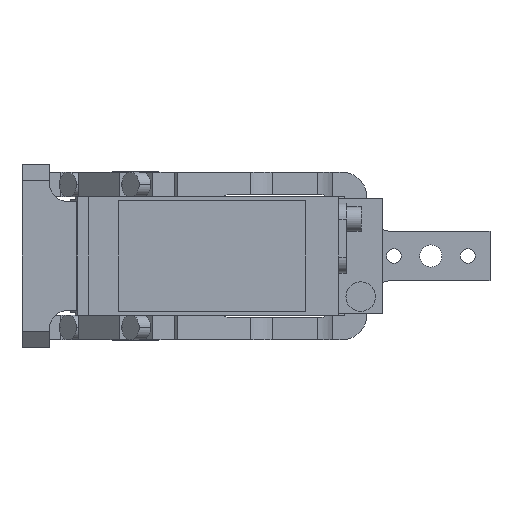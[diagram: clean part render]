
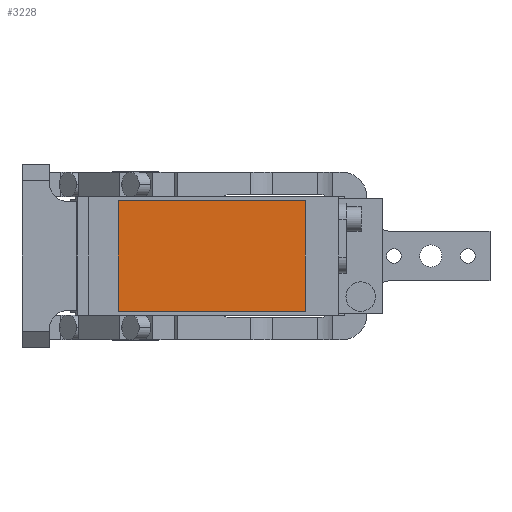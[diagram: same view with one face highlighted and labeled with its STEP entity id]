
A CAD part, front view. The second image highlights one B-rep face of the part: STEP entity #3228.
In plain terms, the highlighted planar face has unit normal (0, -1, 0).
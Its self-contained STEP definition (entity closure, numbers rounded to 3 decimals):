
#680 = CARTESIAN_POINT ( 'NONE',  ( -7., -280.5, -22.5 ) ) ;
#1935 = CARTESIAN_POINT ( 'NONE',  ( -7., -280.5, 22.5 ) ) ;
#3057 = FACE_OUTER_BOUND ( 'NONE', #8756, .T. ) ;
#3228 = ADVANCED_FACE ( 'NONE', ( #3057 ), #9085, .T. ) ;
#3315 = VECTOR ( 'NONE', #13100, 1000. ) ;
#4314 = ORIENTED_EDGE ( 'NONE', *, *, #10491, .T. ) ;
#4653 = CARTESIAN_POINT ( 'NONE',  ( -7., -280.5, -22.5 ) ) ;
#4830 = LINE ( 'NONE', #10889, #3315 ) ;
#5098 = ORIENTED_EDGE ( 'NONE', *, *, #7247, .T. ) ;
#5371 = CARTESIAN_POINT ( 'NONE',  ( 69., -280.5, -22.5 ) ) ;
#5829 = VERTEX_POINT ( 'NONE', #5371 ) ;
#6445 = EDGE_CURVE ( 'NONE', #5829, #10416, #9796, .T. ) ;
#7037 = CARTESIAN_POINT ( 'NONE',  ( 69., -280.5, 22.5 ) ) ;
#7247 = EDGE_CURVE ( 'NONE', #12258, #5829, #12775, .T. ) ;
#7617 = VECTOR ( 'NONE', #8083, 1000. ) ;
#8083 = DIRECTION ( 'NONE',  ( 1., 0., 0. ) ) ;
#8756 = EDGE_LOOP ( 'NONE', ( #4314, #5098, #14605, #9273 ) ) ;
#8778 = DIRECTION ( 'NONE',  ( 0., -1., 0. ) ) ;
#8782 = CARTESIAN_POINT ( 'NONE',  ( -7., -280.5, 22.5 ) ) ;
#8788 = CARTESIAN_POINT ( 'NONE',  ( 69., -280.5, 22.5 ) ) ;
#9085 = PLANE ( 'NONE',  #9287 ) ;
#9273 = ORIENTED_EDGE ( 'NONE', *, *, #14349, .T. ) ;
#9287 = AXIS2_PLACEMENT_3D ( 'NONE', #9933, #8778, #12525 ) ;
#9796 = LINE ( 'NONE', #8788, #12239 ) ;
#9933 = CARTESIAN_POINT ( 'NONE',  ( 0., -280.5, 0. ) ) ;
#10117 = LINE ( 'NONE', #1935, #12294 ) ;
#10416 = VERTEX_POINT ( 'NONE', #7037 ) ;
#10491 = EDGE_CURVE ( 'NONE', #13323, #12258, #10117, .T. ) ;
#10889 = CARTESIAN_POINT ( 'NONE',  ( -7., -280.5, 22.5 ) ) ;
#10955 = DIRECTION ( 'NONE',  ( 0., 0., 1. ) ) ;
#11186 = DIRECTION ( 'NONE',  ( 0., 0., -1. ) ) ;
#12239 = VECTOR ( 'NONE', #10955, 1000. ) ;
#12258 = VERTEX_POINT ( 'NONE', #680 ) ;
#12294 = VECTOR ( 'NONE', #11186, 1000. ) ;
#12525 = DIRECTION ( 'NONE',  ( 0., 0., -1. ) ) ;
#12775 = LINE ( 'NONE', #4653, #7617 ) ;
#13100 = DIRECTION ( 'NONE',  ( -1., 0., 0. ) ) ;
#13323 = VERTEX_POINT ( 'NONE', #8782 ) ;
#14349 = EDGE_CURVE ( 'NONE', #10416, #13323, #4830, .T. ) ;
#14605 = ORIENTED_EDGE ( 'NONE', *, *, #6445, .T. ) ;
